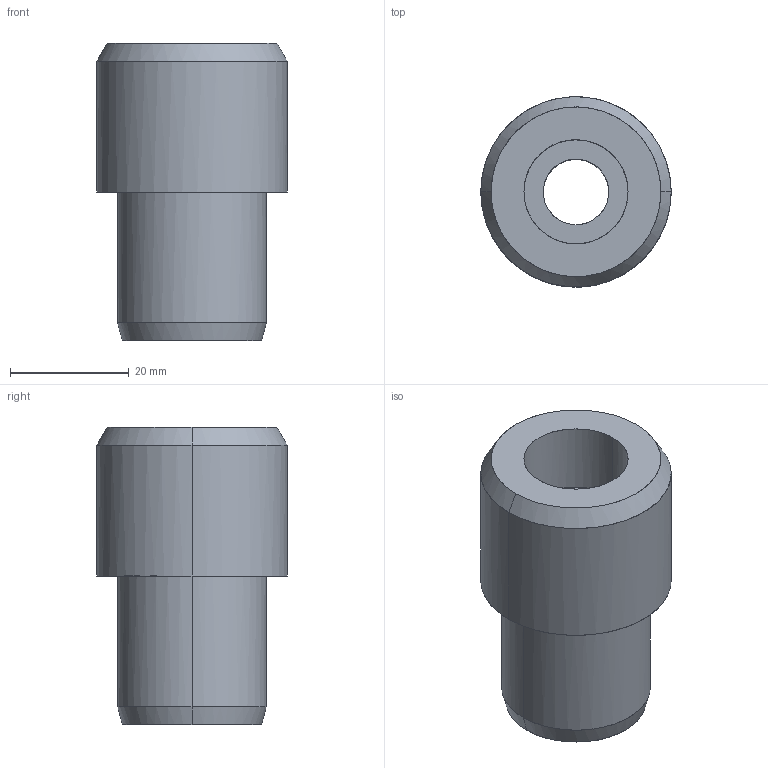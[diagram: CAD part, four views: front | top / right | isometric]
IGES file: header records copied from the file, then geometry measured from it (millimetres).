
Global section: file name: E:\UnigraphicsGraphicData\MISUMI_PRESS-PARTS\IGES\3d_lpl25_07122_r00.igs; native system: NX V5.0; preprocessor: UGS NX IGES V5.0; author: MISUMI; date: 20110105.161224; units: millimetre
Bounding box: 32 x 32 x 50 mm (x, y, z)
Surface area: 7670 mm2 (no closed solid volume)
Topology: 0 solids, 0 shells, 16 faces, 128 edges, 128 vertices
Faces by surface type: bspline 16
